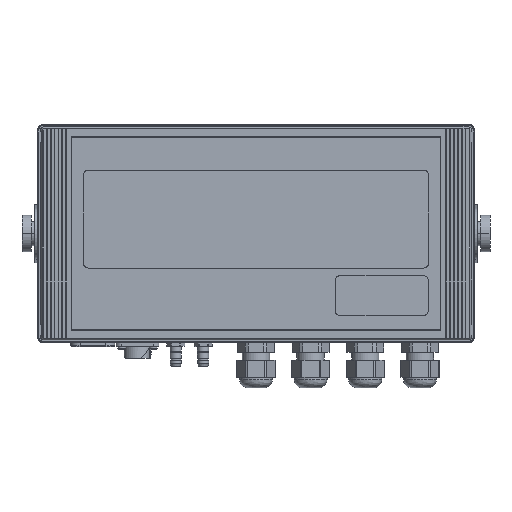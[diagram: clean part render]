
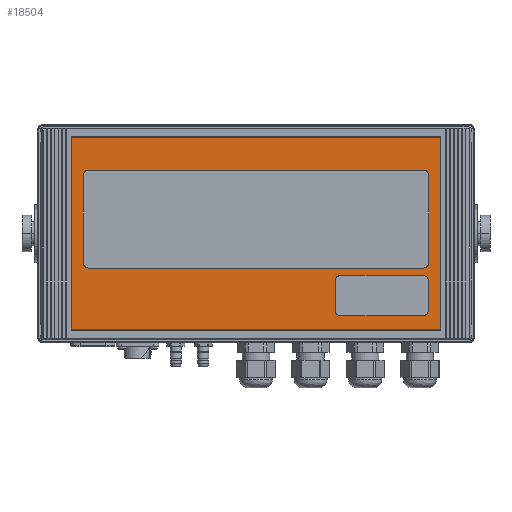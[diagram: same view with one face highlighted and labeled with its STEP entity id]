
A CAD part, top view. The second image highlights one B-rep face of the part: STEP entity #18504.
In plain terms, the highlighted planar face has unit normal (0, 0, 1).
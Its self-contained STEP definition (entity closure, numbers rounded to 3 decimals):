
#2834=CARTESIAN_POINT('',(100.9,52.3,60.));
#2835=DIRECTION('',(0.,0.,1.));
#2836=DIRECTION('',(1.,0.,0.));
#2837=AXIS2_PLACEMENT_3D('',#2834,#2835,#2836);
#2839=DIRECTION('',(0.,1.,0.));
#2840=VECTOR('',#2839,104.6);
#2841=CARTESIAN_POINT('',(101.4,-52.3,60.));
#2842=LINE('',#2841,#2840);
#2843=CARTESIAN_POINT('',(100.9,-52.3,60.));
#2844=DIRECTION('',(0.,0.,1.));
#2845=DIRECTION('',(0.,-1.,0.));
#2846=AXIS2_PLACEMENT_3D('',#2843,#2844,#2845);
#2848=DIRECTION('',(1.,0.,0.));
#2849=VECTOR('',#2848,201.8);
#2850=CARTESIAN_POINT('',(-100.9,-52.8,60.));
#2851=LINE('',#2850,#2849);
#2852=CARTESIAN_POINT('',(-100.9,-52.3,60.));
#2853=DIRECTION('',(0.,0.,1.));
#2854=DIRECTION('',(-1.,0.,0.));
#2855=AXIS2_PLACEMENT_3D('',#2852,#2853,#2854);
#2857=DIRECTION('',(0.,-1.,0.));
#2858=VECTOR('',#2857,104.6);
#2859=CARTESIAN_POINT('',(-101.4,52.3,60.));
#2860=LINE('',#2859,#2858);
#2861=CARTESIAN_POINT('',(-100.9,52.3,60.));
#2862=DIRECTION('',(0.,0.,1.));
#2863=DIRECTION('',(0.,1.,0.));
#2864=AXIS2_PLACEMENT_3D('',#2861,#2862,#2863);
#2866=DIRECTION('',(-1.,0.,0.));
#2867=VECTOR('',#2866,201.8);
#2868=CARTESIAN_POINT('',(100.9,52.8,60.));
#2869=LINE('',#2868,#2867);
#2870=DIRECTION('',(0.,1.,0.));
#2871=VECTOR('',#2870,16.7);
#2872=CARTESIAN_POINT('',(94.5,-42.5,60.));
#2873=LINE('',#2872,#2871);
#2874=DIRECTION('',(-1.,0.,0.));
#2875=VECTOR('',#2874,46.);
#2876=CARTESIAN_POINT('',(92.,-23.3,60.));
#2877=LINE('',#2876,#2875);
#2878=DIRECTION('',(0.,-1.,0.));
#2879=VECTOR('',#2878,16.7);
#2880=CARTESIAN_POINT('',(43.5,-25.8,60.));
#2881=LINE('',#2880,#2879);
#2882=DIRECTION('',(1.,0.,0.));
#2883=VECTOR('',#2882,46.);
#2884=CARTESIAN_POINT('',(46.,-45.,60.));
#2885=LINE('',#2884,#2883);
#2886=DIRECTION('',(1.,0.,0.));
#2887=VECTOR('',#2886,184.5);
#2888=CARTESIAN_POINT('',(-92.25,-19.,60.));
#2889=LINE('',#2888,#2887);
#2890=DIRECTION('',(0.,1.,0.));
#2891=VECTOR('',#2890,48.8);
#2892=CARTESIAN_POINT('',(94.75,-16.5,60.));
#2893=LINE('',#2892,#2891);
#2894=DIRECTION('',(-1.,0.,0.));
#2895=VECTOR('',#2894,184.5);
#2896=CARTESIAN_POINT('',(92.25,34.8,60.));
#2897=LINE('',#2896,#2895);
#2898=DIRECTION('',(0.,-1.,0.));
#2899=VECTOR('',#2898,48.8);
#2900=CARTESIAN_POINT('',(-94.75,32.3,60.));
#2901=LINE('',#2900,#2899);
#2954=CARTESIAN_POINT('',(46.,-42.5,60.));
#2955=DIRECTION('',(0.,0.,-1.));
#2956=DIRECTION('',(0.,-1.,0.));
#2957=AXIS2_PLACEMENT_3D('',#2954,#2955,#2956);
#2967=CARTESIAN_POINT('',(92.,-42.5,60.));
#2968=DIRECTION('',(0.,0.,-1.));
#2969=DIRECTION('',(1.,0.,0.));
#2970=AXIS2_PLACEMENT_3D('',#2967,#2968,#2969);
#2972=CARTESIAN_POINT('',(46.,-25.8,60.));
#2973=DIRECTION('',(0.,0.,-1.));
#2974=DIRECTION('',(-1.,0.,0.));
#2975=AXIS2_PLACEMENT_3D('',#2972,#2973,#2974);
#2985=CARTESIAN_POINT('',(92.,-25.8,60.));
#2986=DIRECTION('',(0.,0.,-1.));
#2987=DIRECTION('',(0.,1.,0.));
#2988=AXIS2_PLACEMENT_3D('',#2985,#2986,#2987);
#3042=CARTESIAN_POINT('',(-92.25,-16.5,60.));
#3043=DIRECTION('',(0.,0.,-1.));
#3044=DIRECTION('',(0.,-1.,0.));
#3045=AXIS2_PLACEMENT_3D('',#3042,#3043,#3044);
#3047=CARTESIAN_POINT('',(-92.25,32.3,60.));
#3048=DIRECTION('',(0.,0.,-1.));
#3049=DIRECTION('',(-1.,0.,0.));
#3050=AXIS2_PLACEMENT_3D('',#3047,#3048,#3049);
#3060=CARTESIAN_POINT('',(92.25,32.3,60.));
#3061=DIRECTION('',(0.,0.,-1.));
#3062=DIRECTION('',(0.,1.,0.));
#3063=AXIS2_PLACEMENT_3D('',#3060,#3061,#3062);
#3073=CARTESIAN_POINT('',(92.25,-16.5,60.));
#3074=DIRECTION('',(0.,0.,-1.));
#3075=DIRECTION('',(1.,0.,0.));
#3076=AXIS2_PLACEMENT_3D('',#3073,#3074,#3075);
#15009=CARTESIAN_POINT('',(-94.75,32.3,60.));
#15010=CARTESIAN_POINT('',(-94.75,-16.5,60.));
#15011=VERTEX_POINT('',#15009);
#15012=VERTEX_POINT('',#15010);
#15013=CARTESIAN_POINT('',(-92.25,-19.,60.));
#15014=CARTESIAN_POINT('',(92.25,-19.,60.));
#15015=VERTEX_POINT('',#15013);
#15016=VERTEX_POINT('',#15014);
#15017=CARTESIAN_POINT('',(94.75,-16.5,60.));
#15018=CARTESIAN_POINT('',(94.75,32.3,60.));
#15019=VERTEX_POINT('',#15017);
#15020=VERTEX_POINT('',#15018);
#15021=CARTESIAN_POINT('',(92.25,34.8,60.));
#15022=CARTESIAN_POINT('',(-92.25,34.8,60.));
#15023=VERTEX_POINT('',#15021);
#15024=VERTEX_POINT('',#15022);
#15025=CARTESIAN_POINT('',(43.5,-25.8,60.));
#15026=CARTESIAN_POINT('',(43.5,-42.5,60.));
#15027=VERTEX_POINT('',#15025);
#15028=VERTEX_POINT('',#15026);
#15029=CARTESIAN_POINT('',(46.,-45.,60.));
#15030=CARTESIAN_POINT('',(92.,-45.,60.));
#15031=VERTEX_POINT('',#15029);
#15032=VERTEX_POINT('',#15030);
#15033=CARTESIAN_POINT('',(94.5,-42.5,60.));
#15034=CARTESIAN_POINT('',(94.5,-25.8,60.));
#15035=VERTEX_POINT('',#15033);
#15036=VERTEX_POINT('',#15034);
#15037=CARTESIAN_POINT('',(92.,-23.3,60.));
#15038=CARTESIAN_POINT('',(46.,-23.3,60.));
#15039=VERTEX_POINT('',#15037);
#15040=VERTEX_POINT('',#15038);
#15041=CARTESIAN_POINT('',(101.4,52.3,60.));
#15042=CARTESIAN_POINT('',(100.9,52.8,60.));
#15043=VERTEX_POINT('',#15041);
#15044=VERTEX_POINT('',#15042);
#15045=CARTESIAN_POINT('',(100.9,-52.8,60.));
#15046=CARTESIAN_POINT('',(101.4,-52.3,60.));
#15047=VERTEX_POINT('',#15045);
#15048=VERTEX_POINT('',#15046);
#15049=CARTESIAN_POINT('',(-101.4,-52.3,60.));
#15050=CARTESIAN_POINT('',(-100.9,-52.8,60.));
#15051=VERTEX_POINT('',#15049);
#15052=VERTEX_POINT('',#15050);
#15053=CARTESIAN_POINT('',(-100.9,52.8,60.));
#15054=CARTESIAN_POINT('',(-101.4,52.3,60.));
#15055=VERTEX_POINT('',#15053);
#15056=VERTEX_POINT('',#15054);
#18453=CARTESIAN_POINT('',(0.,0.,60.));
#18454=DIRECTION('',(0.,0.,1.));
#18455=DIRECTION('',(1.,0.,0.));
#18456=AXIS2_PLACEMENT_3D('',#18453,#18454,#18455);
#18457=PLANE('',#18456);
#18458=ORIENTED_EDGE('',*,*,#18392,.F.);
#18459=ORIENTED_EDGE('',*,*,#18406,.F.);
#18460=ORIENTED_EDGE('',*,*,#18420,.F.);
#18461=ORIENTED_EDGE('',*,*,#18434,.F.);
#18462=ORIENTED_EDGE('',*,*,#18447,.F.);
#18463=ORIENTED_EDGE('',*,*,#18349,.F.);
#18464=ORIENTED_EDGE('',*,*,#18364,.F.);
#18465=ORIENTED_EDGE('',*,*,#18378,.F.);
#18466=EDGE_LOOP('',(#18458,#18459,#18460,#18461,#18462,#18463,#18464,#18465));
#18467=FACE_OUTER_BOUND('',#18466,.F.);
#18469=ORIENTED_EDGE('',*,*,#18468,.T.);
#18471=ORIENTED_EDGE('',*,*,#18470,.F.);
#18473=ORIENTED_EDGE('',*,*,#18472,.T.);
#18475=ORIENTED_EDGE('',*,*,#18474,.F.);
#18477=ORIENTED_EDGE('',*,*,#18476,.T.);
#18479=ORIENTED_EDGE('',*,*,#18478,.F.);
#18481=ORIENTED_EDGE('',*,*,#18480,.T.);
#18483=ORIENTED_EDGE('',*,*,#18482,.F.);
#18484=EDGE_LOOP('',(#18469,#18471,#18473,#18475,#18477,#18479,#18481,#18483));
#18485=FACE_BOUND('',#18484,.F.);
#18487=ORIENTED_EDGE('',*,*,#18486,.T.);
#18489=ORIENTED_EDGE('',*,*,#18488,.F.);
#18491=ORIENTED_EDGE('',*,*,#18490,.T.);
#18493=ORIENTED_EDGE('',*,*,#18492,.F.);
#18495=ORIENTED_EDGE('',*,*,#18494,.T.);
#18497=ORIENTED_EDGE('',*,*,#18496,.F.);
#18499=ORIENTED_EDGE('',*,*,#18498,.T.);
#18501=ORIENTED_EDGE('',*,*,#18500,.F.);
#18502=EDGE_LOOP('',(#18487,#18489,#18491,#18493,#18495,#18497,#18499,#18501));
#18503=FACE_BOUND('',#18502,.F.);
#2838=CIRCLE('',#2837,0.5);
#2847=CIRCLE('',#2846,0.5);
#2856=CIRCLE('',#2855,0.5);
#2865=CIRCLE('',#2864,0.5);
#2958=CIRCLE('',#2957,2.5);
#2971=CIRCLE('',#2970,2.5);
#2976=CIRCLE('',#2975,2.5);
#2989=CIRCLE('',#2988,2.5);
#3046=CIRCLE('',#3045,2.5);
#3051=CIRCLE('',#3050,2.5);
#3064=CIRCLE('',#3063,2.5);
#3077=CIRCLE('',#3076,2.5);
#18349=EDGE_CURVE('',#15056,#15051,#2860,.T.);
#18364=EDGE_CURVE('',#15055,#15056,#2865,.T.);
#18378=EDGE_CURVE('',#15044,#15055,#2869,.T.);
#18392=EDGE_CURVE('',#15043,#15044,#2838,.T.);
#18406=EDGE_CURVE('',#15048,#15043,#2842,.T.);
#18420=EDGE_CURVE('',#15047,#15048,#2847,.T.);
#18434=EDGE_CURVE('',#15052,#15047,#2851,.T.);
#18447=EDGE_CURVE('',#15051,#15052,#2856,.T.);
#18468=EDGE_CURVE('',#15035,#15036,#2873,.T.);
#18470=EDGE_CURVE('',#15039,#15036,#2989,.T.);
#18472=EDGE_CURVE('',#15039,#15040,#2877,.T.);
#18474=EDGE_CURVE('',#15027,#15040,#2976,.T.);
#18476=EDGE_CURVE('',#15027,#15028,#2881,.T.);
#18478=EDGE_CURVE('',#15031,#15028,#2958,.T.);
#18480=EDGE_CURVE('',#15031,#15032,#2885,.T.);
#18482=EDGE_CURVE('',#15035,#15032,#2971,.T.);
#18486=EDGE_CURVE('',#15015,#15016,#2889,.T.);
#18488=EDGE_CURVE('',#15019,#15016,#3077,.T.);
#18490=EDGE_CURVE('',#15019,#15020,#2893,.T.);
#18492=EDGE_CURVE('',#15023,#15020,#3064,.T.);
#18494=EDGE_CURVE('',#15023,#15024,#2897,.T.);
#18496=EDGE_CURVE('',#15011,#15024,#3051,.T.);
#18498=EDGE_CURVE('',#15011,#15012,#2901,.T.);
#18500=EDGE_CURVE('',#15015,#15012,#3046,.T.);
#18504=ADVANCED_FACE('',(#18467,#18485,#18503),#18457,.T.);
